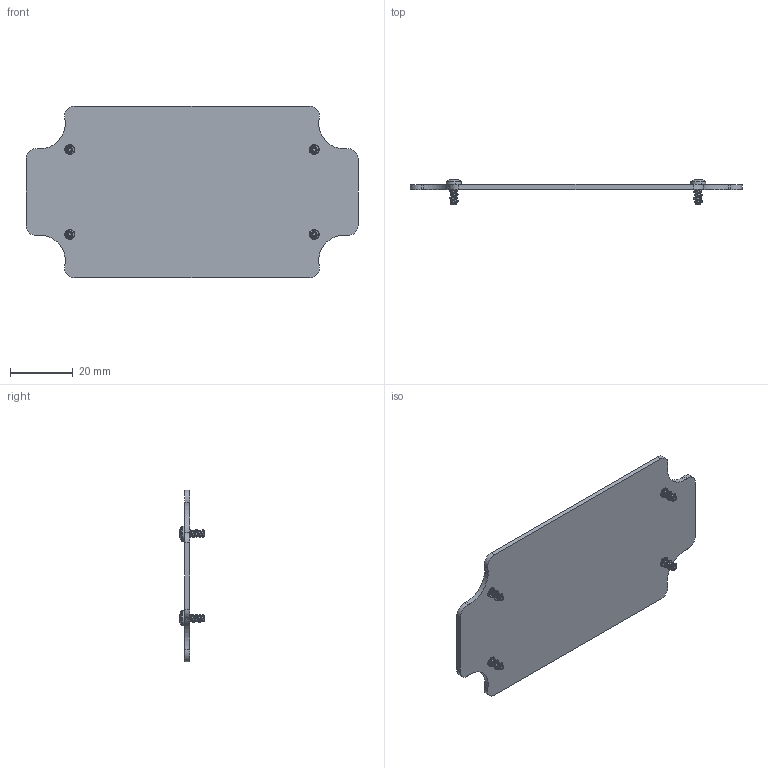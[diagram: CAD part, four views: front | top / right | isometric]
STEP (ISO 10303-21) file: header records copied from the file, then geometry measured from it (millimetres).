
FILE_DESCRIPTION (( 'STEP AP214' ), '1' );
FILE_NAME ('HD-24K-01.STEP', '2026-02-05T17:04:32', ( '' ), ( '' ), 'SwSTEP 2.0', 'SolidWorks 2025', '' );
FILE_SCHEMA (( 'AUTOMOTIVE_DESIGN' ));
Length unit declared in the file: inch
Products named in the file (3): SCREWS-MBR; HD-24K-01; HD-24P-01_DEFAULT
Assembly tree (5 placements, depth 2):
  HD-24K-01
    HD-24P-01_DEFAULT
    SCREWS-MBR  x4
Bounding box: 105.66 x 7.99 x 54.66 mm (x, y, z)
Volume: 8262.2 mm3; surface area: 11224 mm2
Topology: 5 solids, 5 shells, 618 faces, 1460 edges, 828 vertices
Faces by surface type: cylinder 192, torus 144, bspline 104, plane 90, sphere 72, cone 16
Entity records: 9623 total; most frequent: CARTESIAN_POINT 5534, DIRECTION 877, ORIENTED_EDGE 840, EDGE_CURVE 420, AXIS2_PLACEMENT_3D 382, VERTEX_POINT 249, CIRCLE 223, EDGE_LOOP 187
